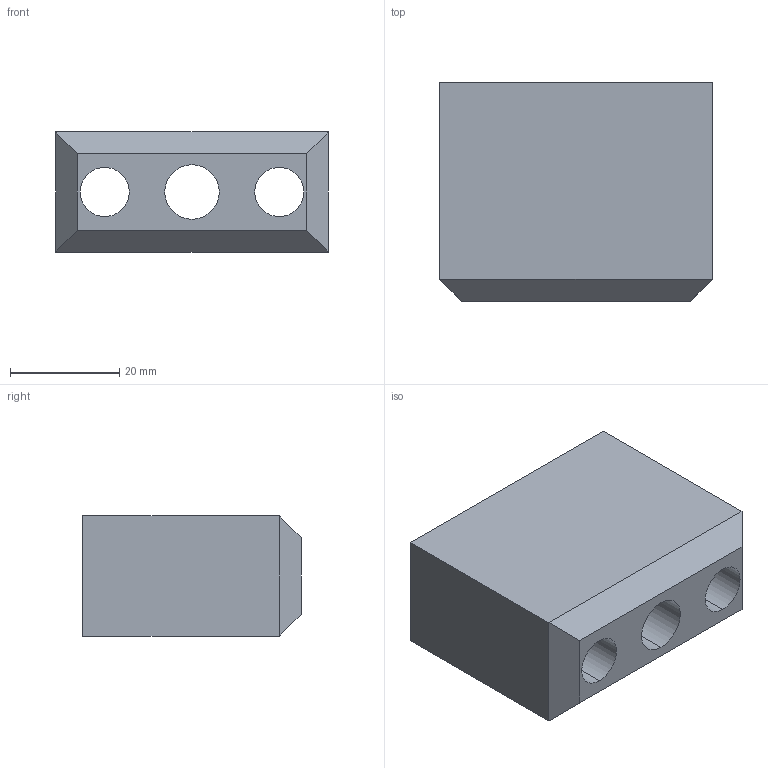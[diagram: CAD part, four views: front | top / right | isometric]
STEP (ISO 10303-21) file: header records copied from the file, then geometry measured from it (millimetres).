
FILE_DESCRIPTION(('CATIA V5 STEP Exchange'),'2;1');
FILE_NAME('C:\Users\Raffaele\Desktop\3D X SITO CF\761\GSB_OILLESS_M31705040050\STEP-2.03\761-040050.stp','2019-07-05T06:36:05+00:00',('none'),('none'),'CATIA Version 5 Release 20 GA (IN-10)','CATIA V5 STEP AP203','none');
FILE_SCHEMA(('CONFIG_CONTROL_DESIGN'));
Length unit declared in the file: millimetre
Products named in the file (1): 761-040050
Bounding box: 50 x 40 x 22 mm (x, y, z)
Volume: 29298.8 mm3; surface area: 11582.8 mm2
Topology: 1 solids, 1 shells, 25 faces, 80 edges, 60 vertices
Faces by surface type: plane 13, cylinder 12
Entity records: 1074 total; most frequent: CARTESIAN_POINT 316, ORIENTED_EDGE 160, DIRECTION 118, EDGE_CURVE 80, AXIS2_PLACEMENT_3D 62, VERTEX_POINT 60, CIRCLE 36, EDGE_LOOP 34
